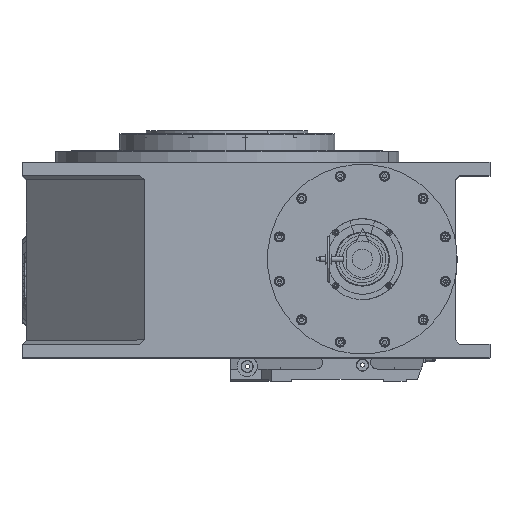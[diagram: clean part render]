
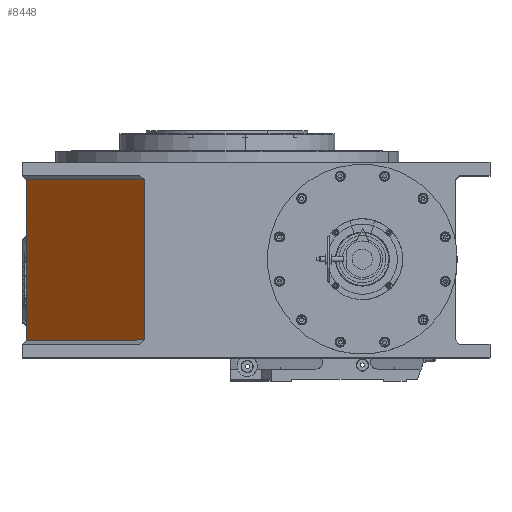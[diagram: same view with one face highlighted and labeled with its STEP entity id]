
A CAD part, top view. The second image highlights one B-rep face of the part: STEP entity #8448.
In plain terms, the highlighted planar face has unit normal (-0.707, 0, 0.707).
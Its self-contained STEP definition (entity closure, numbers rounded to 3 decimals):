
#1096 = ORIENTED_EDGE ( 'NONE', *, *, #4172, .T. ) ;
#4172 = EDGE_CURVE ( 'NONE', #56075, #54988, #66478, .T. ) ;
#6572 = DIRECTION ( 'NONE',  ( -0.707, 0., -0.707 ) ) ;
#7016 = CARTESIAN_POINT ( 'NONE',  ( 6., 264., 121.989 ) ) ;
#7035 = EDGE_CURVE ( 'NONE', #20886, #53157, #20593, .T. ) ;
#8448 = ADVANCED_FACE ( 'NONE', ( #63397 ), #49828, .F. ) ;
#15445 = VECTOR ( 'NONE', #19233, 1000. ) ;
#15520 = CARTESIAN_POINT ( 'NONE',  ( 182.511, 270., 298.5 ) ) ;
#19233 = DIRECTION ( 'NONE',  ( 0., -1., 0. ) ) ;
#20593 = LINE ( 'NONE', #33298, #60099 ) ;
#20886 = VERTEX_POINT ( 'NONE', #75743 ) ;
#22279 = ORIENTED_EDGE ( 'NONE', *, *, #7035, .T. ) ;
#29491 = LINE ( 'NONE', #42600, #63194 ) ;
#33298 = CARTESIAN_POINT ( 'NONE',  ( 6., 264., 121.989 ) ) ;
#35860 = ORIENTED_EDGE ( 'NONE', *, *, #57496, .T. ) ;
#40984 = CARTESIAN_POINT ( 'NONE',  ( 6., 270., 121.989 ) ) ;
#42600 = CARTESIAN_POINT ( 'NONE',  ( 182.511, 270., 298.5 ) ) ;
#43983 = CARTESIAN_POINT ( 'NONE',  ( 6., 26., 121.989 ) ) ;
#45376 = EDGE_CURVE ( 'NONE', #20886, #54988, #29491, .T. ) ;
#45955 = LINE ( 'NONE', #40984, #15445 ) ;
#49828 = PLANE ( 'NONE',  #50099 ) ;
#50099 = AXIS2_PLACEMENT_3D ( 'NONE', #15520, #69264, #68370 ) ;
#53157 = VERTEX_POINT ( 'NONE', #7016 ) ;
#54988 = VERTEX_POINT ( 'NONE', #61960 ) ;
#56075 = VERTEX_POINT ( 'NONE', #43983 ) ;
#57496 = EDGE_CURVE ( 'NONE', #53157, #56075, #45955, .T. ) ;
#59712 = DIRECTION ( 'NONE',  ( 0.707, 0., 0.707 ) ) ;
#60099 = VECTOR ( 'NONE', #6572, 1000. ) ;
#61960 = CARTESIAN_POINT ( 'NONE',  ( 182.511, 26., 298.5 ) ) ;
#63194 = VECTOR ( 'NONE', #64645, 1000. ) ;
#63397 = FACE_OUTER_BOUND ( 'NONE', #67854, .T. ) ;
#64645 = DIRECTION ( 'NONE',  ( 0., -1., 0. ) ) ;
#66478 = LINE ( 'NONE', #86750, #78142 ) ;
#67854 = EDGE_LOOP ( 'NONE', ( #86171, #22279, #35860, #1096 ) ) ;
#68370 = DIRECTION ( 'NONE',  ( -0.707, 0., -0.707 ) ) ;
#69264 = DIRECTION ( 'NONE',  ( 0.707, 0., -0.707 ) ) ;
#75743 = CARTESIAN_POINT ( 'NONE',  ( 182.511, 264., 298.5 ) ) ;
#78142 = VECTOR ( 'NONE', #59712, 1000. ) ;
#86171 = ORIENTED_EDGE ( 'NONE', *, *, #45376, .F. ) ;
#86750 = CARTESIAN_POINT ( 'NONE',  ( 182.511, 26., 298.5 ) ) ;
